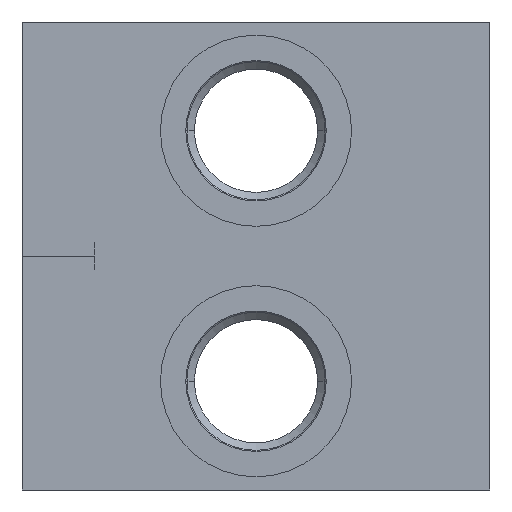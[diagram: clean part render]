
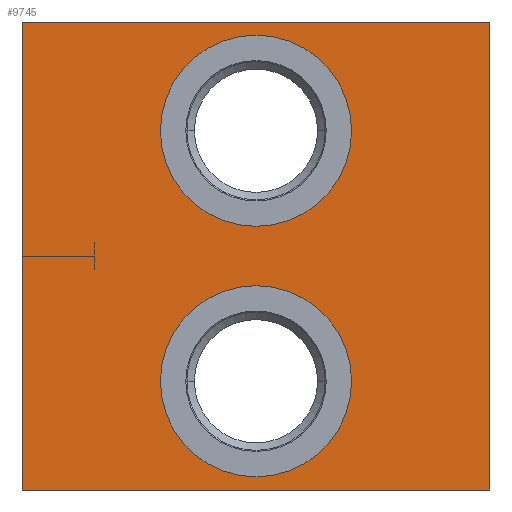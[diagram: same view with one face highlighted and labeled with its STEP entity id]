
A CAD part, left-side view. The second image highlights one B-rep face of the part: STEP entity #9745.
In plain terms, the highlighted planar face has unit normal (-1, 0, 0).
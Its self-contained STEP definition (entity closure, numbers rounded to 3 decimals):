
#30=DIRECTION('',(0.,-1.,0.));
#31=VECTOR('',#30,71.);
#32=CARTESIAN_POINT('',(0.,71.,0.));
#33=LINE('',#32,#31);
#307=DIRECTION('',(0.,0.,-1.));
#308=VECTOR('',#307,71.);
#309=CARTESIAN_POINT('',(0.,0.,0.));
#310=LINE('',#309,#308);
#2266=DIRECTION('',(0.,0.,-1.));
#2267=VECTOR('',#2266,71.);
#2268=CARTESIAN_POINT('',(0.,71.,0.));
#2269=LINE('',#2268,#2267);
#2273=CARTESIAN_POINT('',(0.,35.5,-54.5));
#2274=DIRECTION('',(1.,0.,0.));
#2275=DIRECTION('',(0.,-1.,0.));
#2276=AXIS2_PLACEMENT_3D('',#2273,#2274,#2275);
#2281=CARTESIAN_POINT('',(0.,35.5,-54.5));
#2282=DIRECTION('',(1.,0.,0.));
#2283=DIRECTION('',(0.,1.,0.));
#2284=AXIS2_PLACEMENT_3D('',#2281,#2282,#2283);
#2289=CARTESIAN_POINT('',(0.,35.5,-16.5));
#2290=DIRECTION('',(1.,0.,0.));
#2291=DIRECTION('',(0.,-1.,0.));
#2292=AXIS2_PLACEMENT_3D('',#2289,#2290,#2291);
#2297=CARTESIAN_POINT('',(0.,35.5,-16.5));
#2298=DIRECTION('',(1.,0.,0.));
#2299=DIRECTION('',(0.,1.,0.));
#2300=AXIS2_PLACEMENT_3D('',#2297,#2298,#2299);
#2326=DIRECTION('',(0.,-1.,0.));
#2327=VECTOR('',#2326,71.);
#2328=CARTESIAN_POINT('',(0.,71.,-71.));
#2329=LINE('',#2328,#2327);
#8210=CARTESIAN_POINT('',(0.,0.,0.));
#8212=VERTEX_POINT('',#8210);
#8216=CARTESIAN_POINT('',(0.,71.,0.));
#8217=VERTEX_POINT('',#8216);
#8218=CARTESIAN_POINT('',(0.,0.,-71.));
#8220=VERTEX_POINT('',#8218);
#8224=CARTESIAN_POINT('',(0.,71.,-71.));
#8225=VERTEX_POINT('',#8224);
#8254=CARTESIAN_POINT('',(0.,21.,-54.5));
#8255=CARTESIAN_POINT('',(0.,50.,-54.5));
#8256=VERTEX_POINT('',#8254);
#8257=VERTEX_POINT('',#8255);
#8270=CARTESIAN_POINT('',(0.,21.,-16.5));
#8271=CARTESIAN_POINT('',(0.,50.,-16.5));
#8272=VERTEX_POINT('',#8270);
#8273=VERTEX_POINT('',#8271);
#9721=CARTESIAN_POINT('',(0.,71.,0.));
#9722=DIRECTION('',(-1.,0.,0.));
#9723=DIRECTION('',(0.,-1.,0.));
#9724=AXIS2_PLACEMENT_3D('',#9721,#9722,#9723);
#9725=PLANE('',#9724);
#9726=ORIENTED_EDGE('',*,*,#9149,.T.);
#9727=ORIENTED_EDGE('',*,*,#9271,.T.);
#9729=ORIENTED_EDGE('',*,*,#9728,.F.);
#9730=ORIENTED_EDGE('',*,*,#9358,.F.);
#9731=EDGE_LOOP('',(#9726,#9727,#9729,#9730));
#9732=FACE_OUTER_BOUND('',#9731,.F.);
#9734=ORIENTED_EDGE('',*,*,#9733,.F.);
#9736=ORIENTED_EDGE('',*,*,#9735,.F.);
#9737=EDGE_LOOP('',(#9734,#9736));
#9738=FACE_BOUND('',#9737,.F.);
#9740=ORIENTED_EDGE('',*,*,#9739,.F.);
#9742=ORIENTED_EDGE('',*,*,#9741,.F.);
#9743=EDGE_LOOP('',(#9740,#9742));
#9744=FACE_BOUND('',#9743,.F.);
#2277=CIRCLE('',#2276,14.5);
#2285=CIRCLE('',#2284,14.5);
#2293=CIRCLE('',#2292,14.5);
#2301=CIRCLE('',#2300,14.5);
#9149=EDGE_CURVE('',#8217,#8212,#33,.T.);
#9271=EDGE_CURVE('',#8212,#8220,#310,.T.);
#9358=EDGE_CURVE('',#8217,#8225,#2269,.T.);
#9728=EDGE_CURVE('',#8225,#8220,#2329,.T.);
#9733=EDGE_CURVE('',#8256,#8257,#2277,.T.);
#9735=EDGE_CURVE('',#8257,#8256,#2285,.T.);
#9739=EDGE_CURVE('',#8272,#8273,#2293,.T.);
#9741=EDGE_CURVE('',#8273,#8272,#2301,.T.);
#9745=ADVANCED_FACE('',(#9732,#9738,#9744),#9725,.T.);
